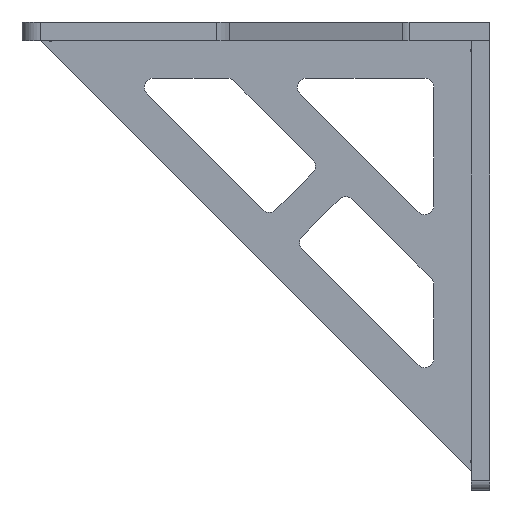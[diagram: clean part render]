
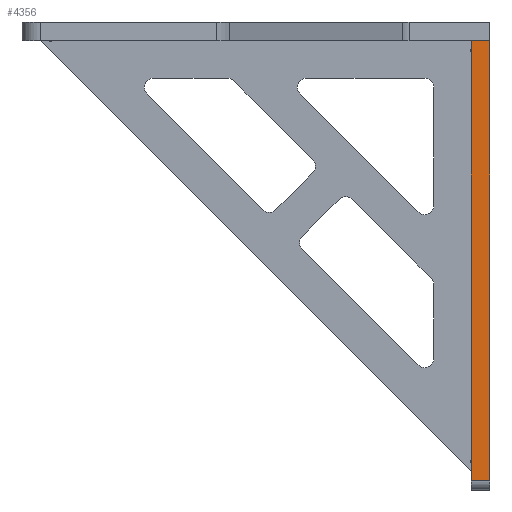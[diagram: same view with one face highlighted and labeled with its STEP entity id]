
A CAD part, left-side view. The second image highlights one B-rep face of the part: STEP entity #4356.
In plain terms, the highlighted planar face has unit normal (-1, 0, 0).
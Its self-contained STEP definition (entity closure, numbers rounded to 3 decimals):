
#70 = DIRECTION ( 'NONE',  ( 1., 0., 0. ) ) ;
#147 = DIRECTION ( 'NONE',  ( 0., 0., -1. ) ) ;
#248 = LINE ( 'NONE', #2645, #6200 ) ;
#413 = LINE ( 'NONE', #2552, #1294 ) ;
#607 = EDGE_CURVE ( 'NONE', #3867, #2510, #5662, .T. ) ;
#671 = ORIENTED_EDGE ( 'NONE', *, *, #5431, .F. ) ;
#1025 = EDGE_LOOP ( 'NONE', ( #3218, #4410, #5739, #671 ) ) ;
#1294 = VECTOR ( 'NONE', #6467, 1000. ) ;
#1696 = CARTESIAN_POINT ( 'NONE',  ( 0., 10., -235. ) ) ;
#1700 = CARTESIAN_POINT ( 'NONE',  ( 0., 10., -235. ) ) ;
#1800 = CARTESIAN_POINT ( 'NONE',  ( 0., 10., 0. ) ) ;
#1913 = FACE_OUTER_BOUND ( 'NONE', #1025, .T. ) ;
#2510 = VERTEX_POINT ( 'NONE', #3222 ) ;
#2552 = CARTESIAN_POINT ( 'NONE',  ( 0., 10., 0. ) ) ;
#2645 = CARTESIAN_POINT ( 'NONE',  ( 0., 10., 0. ) ) ;
#3044 = EDGE_CURVE ( 'NONE', #2510, #4962, #5901, .T. ) ;
#3047 = CARTESIAN_POINT ( 'NONE',  ( 0., 10., 0. ) ) ;
#3218 = ORIENTED_EDGE ( 'NONE', *, *, #6402, .F. ) ;
#3222 = CARTESIAN_POINT ( 'NONE',  ( 0., 0., -235. ) ) ;
#3330 = VECTOR ( 'NONE', #4224, 1000. ) ;
#3397 = DIRECTION ( 'NONE',  ( 0., -1., 0. ) ) ;
#3594 = VERTEX_POINT ( 'NONE', #3047 ) ;
#3642 = DIRECTION ( 'NONE',  ( 0., 0., 1. ) ) ;
#3867 = VERTEX_POINT ( 'NONE', #1700 ) ;
#4224 = DIRECTION ( 'NONE',  ( 0., 0., 1. ) ) ;
#4356 = ADVANCED_FACE ( 'NONE', ( #1913 ), #5140, .F. ) ;
#4410 = ORIENTED_EDGE ( 'NONE', *, *, #607, .T. ) ;
#4962 = VERTEX_POINT ( 'NONE', #6515 ) ;
#5140 = PLANE ( 'NONE',  #5577 ) ;
#5431 = EDGE_CURVE ( 'NONE', #3594, #4962, #413, .T. ) ;
#5445 = VECTOR ( 'NONE', #3397, 1000. ) ;
#5577 = AXIS2_PLACEMENT_3D ( 'NONE', #1800, #70, #147 ) ;
#5662 = LINE ( 'NONE', #1696, #5445 ) ;
#5739 = ORIENTED_EDGE ( 'NONE', *, *, #3044, .T. ) ;
#5866 = CARTESIAN_POINT ( 'NONE',  ( 0., 0., 0. ) ) ;
#5901 = LINE ( 'NONE', #5866, #3330 ) ;
#6200 = VECTOR ( 'NONE', #3642, 1000. ) ;
#6402 = EDGE_CURVE ( 'NONE', #3867, #3594, #248, .T. ) ;
#6467 = DIRECTION ( 'NONE',  ( 0., -1., 0. ) ) ;
#6515 = CARTESIAN_POINT ( 'NONE',  ( 0., 0., 0. ) ) ;
